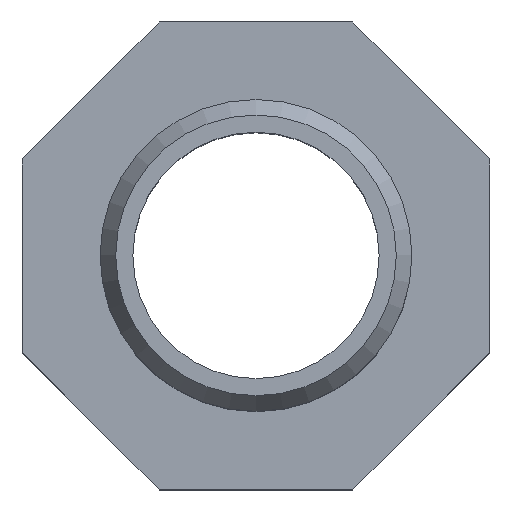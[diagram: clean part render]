
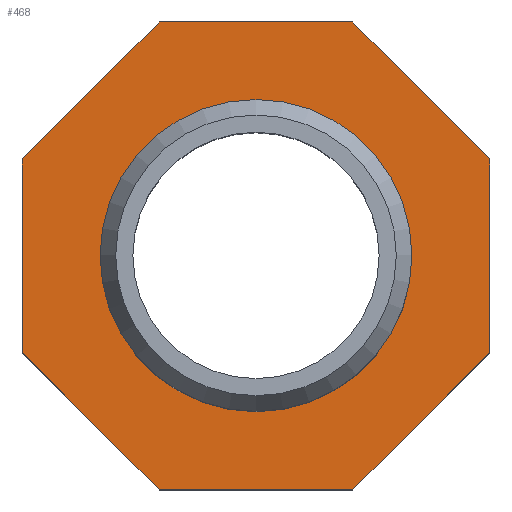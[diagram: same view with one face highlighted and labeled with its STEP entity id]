
A CAD part, top view. The second image highlights one B-rep face of the part: STEP entity #468.
In plain terms, the highlighted planar face has unit normal (0, 0, 1).
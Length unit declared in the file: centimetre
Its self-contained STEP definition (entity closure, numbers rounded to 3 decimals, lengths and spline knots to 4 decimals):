
#26=LINE('',#4093,#53);
#29=LINE('',#4098,#56);
#31=LINE('',#4102,#58);
#33=LINE('',#4106,#60);
#35=LINE('',#4110,#62);
#37=LINE('',#4114,#64);
#39=LINE('',#4118,#66);
#41=LINE('',#4121,#68);
#53=VECTOR('',#578,1.2426);
#56=VECTOR('',#583,1.2426);
#58=VECTOR('',#587,1.2426);
#60=VECTOR('',#591,1.2426);
#62=VECTOR('',#595,1.2426);
#64=VECTOR('',#599,1.2426);
#66=VECTOR('',#603,1.2426);
#68=VECTOR('',#607,1.2426);
#102=FACE_BOUND('',#171,.T.);
#131=FACE_OUTER_BOUND('',#170,.T.);
#170=EDGE_LOOP('',(#376,#377,#378,#379,#380,#381,#382,#383));
#171=EDGE_LOOP('',(#384));
#191=CIRCLE('',#494,1.);
#215=VERTEX_POINT('',#4066);
#226=VERTEX_POINT('',#4091);
#227=VERTEX_POINT('',#4092);
#228=VERTEX_POINT('',#4097);
#229=VERTEX_POINT('',#4101);
#230=VERTEX_POINT('',#4105);
#231=VERTEX_POINT('',#4109);
#232=VERTEX_POINT('',#4113);
#233=VERTEX_POINT('',#4117);
#261=EDGE_CURVE('',#215,#215,#191,.T.);
#272=EDGE_CURVE('',#226,#227,#26,.T.);
#275=EDGE_CURVE('',#228,#226,#29,.T.);
#277=EDGE_CURVE('',#229,#228,#31,.T.);
#279=EDGE_CURVE('',#230,#229,#33,.T.);
#281=EDGE_CURVE('',#231,#230,#35,.T.);
#283=EDGE_CURVE('',#232,#231,#37,.T.);
#285=EDGE_CURVE('',#233,#232,#39,.T.);
#287=EDGE_CURVE('',#227,#233,#41,.T.);
#376=ORIENTED_EDGE('',*,*,#287,.F.);
#377=ORIENTED_EDGE('',*,*,#272,.F.);
#378=ORIENTED_EDGE('',*,*,#275,.F.);
#379=ORIENTED_EDGE('',*,*,#277,.F.);
#380=ORIENTED_EDGE('',*,*,#279,.F.);
#381=ORIENTED_EDGE('',*,*,#281,.F.);
#382=ORIENTED_EDGE('',*,*,#283,.F.);
#383=ORIENTED_EDGE('',*,*,#285,.F.);
#384=ORIENTED_EDGE('',*,*,#261,.F.);
#411=PLANE('',#508);
#468=ADVANCED_FACE('',(#131,#102),#411,.T.);
#494=AXIS2_PLACEMENT_3D('',#4067,#558,#559);
#508=AXIS2_PLACEMENT_3D('',#4123,#610,#611);
#558=DIRECTION('center_axis',(0.,0.,1.));
#559=DIRECTION('ref_axis',(1.,0.,0.));
#578=DIRECTION('',(1.,0.,0.));
#583=DIRECTION('',(0.707,0.707,0.));
#587=DIRECTION('',(0.,1.,0.));
#591=DIRECTION('',(-0.707,0.707,0.));
#595=DIRECTION('',(-1.,0.,0.));
#599=DIRECTION('',(-0.707,-0.707,0.));
#603=DIRECTION('',(0.,-1.,0.));
#607=DIRECTION('',(0.707,-0.707,0.));
#610=DIRECTION('center_axis',(0.,0.,1.));
#611=DIRECTION('ref_axis',(1.,0.,0.));
#4066=CARTESIAN_POINT('',(0.598,-0.003,0.4233));
#4067=CARTESIAN_POINT('Origin',(-0.402,-0.003,
0.4233));
#4091=CARTESIAN_POINT('',(-1.0233,1.497,0.4233));
#4092=CARTESIAN_POINT('',(0.2193,1.497,0.4233));
#4093=CARTESIAN_POINT('',(-1.0233,1.497,0.4233));
#4097=CARTESIAN_POINT('',(-1.902,0.6183,0.4233));
#4098=CARTESIAN_POINT('',(-1.902,0.6183,0.4233));
#4101=CARTESIAN_POINT('',(-1.902,-0.6243,0.4233));
#4102=CARTESIAN_POINT('',(-1.902,-0.6243,0.4233));
#4105=CARTESIAN_POINT('',(-1.0233,-1.503,0.4233));
#4106=CARTESIAN_POINT('',(-1.0233,-1.503,0.4233));
#4109=CARTESIAN_POINT('',(0.2193,-1.503,0.4233));
#4110=CARTESIAN_POINT('',(0.2193,-1.503,0.4233));
#4113=CARTESIAN_POINT('',(1.098,-0.6243,0.4233));
#4114=CARTESIAN_POINT('',(1.098,-0.6243,0.4233));
#4117=CARTESIAN_POINT('',(1.098,0.6183,0.4233));
#4118=CARTESIAN_POINT('',(1.098,0.6183,0.4233));
#4121=CARTESIAN_POINT('',(0.2193,1.497,0.4233));
#4123=CARTESIAN_POINT('Origin',(0.598,-0.003,
0.4233));
